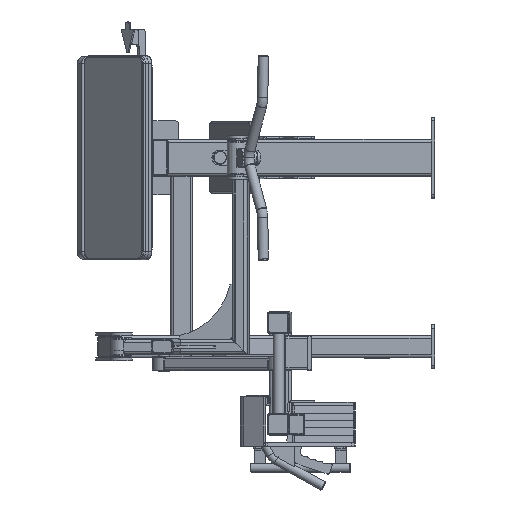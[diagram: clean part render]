
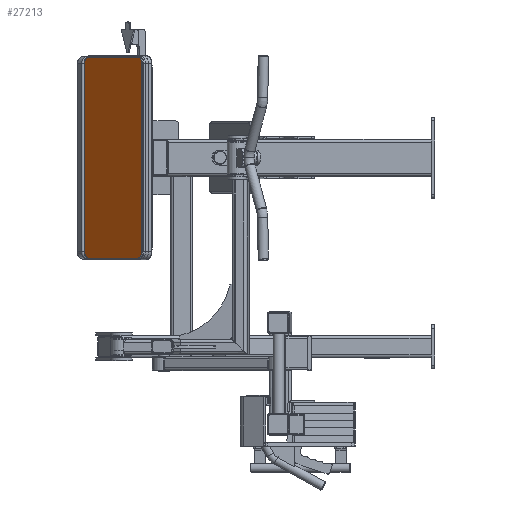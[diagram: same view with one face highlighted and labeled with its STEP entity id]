
A CAD part, left-side view. The second image highlights one B-rep face of the part: STEP entity #27213.
In plain terms, the highlighted planar face has unit normal (-0.682, 0.731, 0).
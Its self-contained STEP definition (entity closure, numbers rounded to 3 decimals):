
#2439=CIRCLE('',#29641,18.);
#2440=CIRCLE('',#29642,18.);
#2441=CIRCLE('',#29643,18.);
#2442=CIRCLE('',#29644,18.);
#3753=FACE_OUTER_BOUND('',#5498,.T.);
#5498=EDGE_LOOP('',(#21307,#21308,#21309,#21310,#21311,#21312,#21313,#21314));
#7630=LINE('',#43163,#9946);
#7631=LINE('',#43167,#9947);
#7632=LINE('',#43171,#9948);
#7633=LINE('',#43175,#9949);
#9946=VECTOR('',#35135,1000.);
#9947=VECTOR('',#35138,1000.);
#9948=VECTOR('',#35141,1000.);
#9949=VECTOR('',#35144,1000.);
#12278=VERTEX_POINT('',#43161);
#12279=VERTEX_POINT('',#43162);
#12280=VERTEX_POINT('',#43164);
#12281=VERTEX_POINT('',#43166);
#12282=VERTEX_POINT('',#43168);
#12283=VERTEX_POINT('',#43170);
#12284=VERTEX_POINT('',#43172);
#12285=VERTEX_POINT('',#43174);
#15506=EDGE_CURVE('',#12278,#12279,#7630,.T.);
#15507=EDGE_CURVE('',#12279,#12280,#2439,.T.);
#15508=EDGE_CURVE('',#12280,#12281,#7631,.T.);
#15509=EDGE_CURVE('',#12281,#12282,#2440,.T.);
#15510=EDGE_CURVE('',#12282,#12283,#7632,.T.);
#15511=EDGE_CURVE('',#12283,#12284,#2441,.T.);
#15512=EDGE_CURVE('',#12284,#12285,#7633,.T.);
#15513=EDGE_CURVE('',#12285,#12278,#2442,.T.);
#21307=ORIENTED_EDGE('',*,*,#15506,.T.);
#21308=ORIENTED_EDGE('',*,*,#15507,.T.);
#21309=ORIENTED_EDGE('',*,*,#15508,.T.);
#21310=ORIENTED_EDGE('',*,*,#15509,.T.);
#21311=ORIENTED_EDGE('',*,*,#15510,.T.);
#21312=ORIENTED_EDGE('',*,*,#15511,.T.);
#21313=ORIENTED_EDGE('',*,*,#15512,.T.);
#21314=ORIENTED_EDGE('',*,*,#15513,.T.);
#26067=PLANE('',#29640);
#27213=ADVANCED_FACE('',(#3753),#26067,.T.);
#29640=AXIS2_PLACEMENT_3D('',#43160,#35133,#35134);
#29641=AXIS2_PLACEMENT_3D('',#43165,#35136,#35137);
#29642=AXIS2_PLACEMENT_3D('',#43169,#35139,#35140);
#29643=AXIS2_PLACEMENT_3D('',#43173,#35142,#35143);
#29644=AXIS2_PLACEMENT_3D('',#43176,#35145,#35146);
#35133=DIRECTION('center_axis',(-0.682,0.731,0.));
#35134=DIRECTION('ref_axis',(0.,0.,
1.));
#35135=DIRECTION('',(0.,0.,1.));
#35136=DIRECTION('center_axis',(-0.682,0.731,0.));
#35137=DIRECTION('ref_axis',(0.,0.,
1.));
#35138=DIRECTION('',(0.731,0.682,0.));
#35139=DIRECTION('center_axis',(-0.682,0.731,0.));
#35140=DIRECTION('ref_axis',(0.,0.,
1.));
#35141=DIRECTION('',(0.,0.,-1.));
#35142=DIRECTION('center_axis',(-0.682,0.731,0.));
#35143=DIRECTION('ref_axis',(0.,0.,
1.));
#35144=DIRECTION('',(-0.731,-0.682,0.));
#35145=DIRECTION('center_axis',(-0.682,0.731,0.));
#35146=DIRECTION('ref_axis',(0.,0.,
1.));
#43160=CARTESIAN_POINT('Origin',(-560.617,955.041,172.578));
#43161=CARTESIAN_POINT('',(-643.991,877.293,-82.422));
#43162=CARTESIAN_POINT('',(-643.991,877.293,427.578));
#43163=CARTESIAN_POINT('',(-643.991,877.293,427.578));
#43164=CARTESIAN_POINT('',(-630.827,889.569,445.578));
#43165=CARTESIAN_POINT('Origin',(-630.827,889.569,427.578));
#43166=CARTESIAN_POINT('',(-490.407,1020.513,445.578));
#43167=CARTESIAN_POINT('',(-490.407,1020.513,445.578));
#43168=CARTESIAN_POINT('',(-477.242,1032.789,427.578));
#43169=CARTESIAN_POINT('Origin',(-490.407,1020.513,427.578));
#43170=CARTESIAN_POINT('',(-477.242,1032.789,-82.422));
#43171=CARTESIAN_POINT('',(-477.242,1032.789,-82.422));
#43172=CARTESIAN_POINT('',(-490.407,1020.513,-100.422));
#43173=CARTESIAN_POINT('Origin',(-490.407,1020.513,-82.422));
#43174=CARTESIAN_POINT('',(-630.827,889.569,-100.422));
#43175=CARTESIAN_POINT('',(-630.827,889.569,-100.422));
#43176=CARTESIAN_POINT('Origin',(-630.827,889.569,-82.422));
